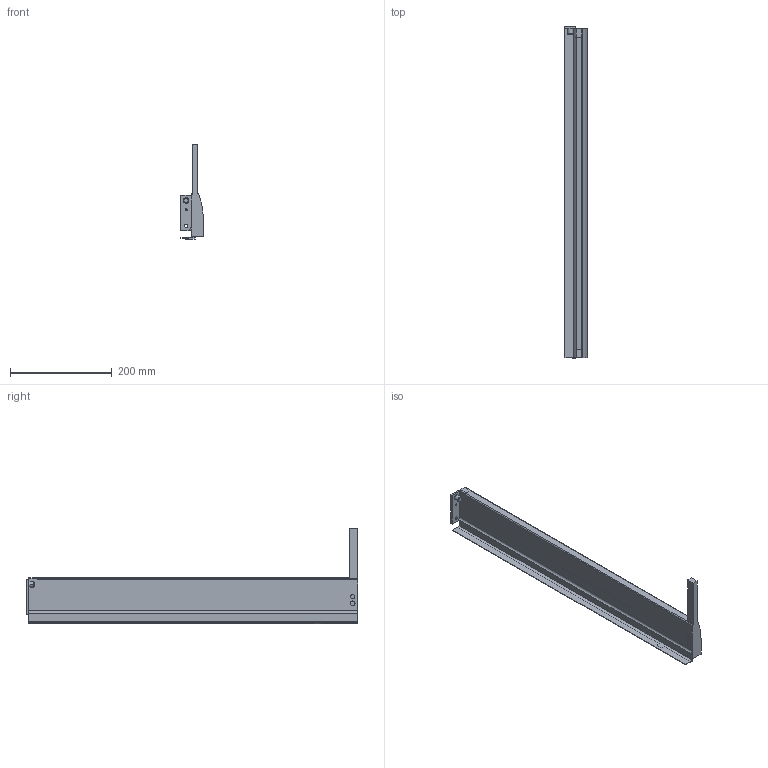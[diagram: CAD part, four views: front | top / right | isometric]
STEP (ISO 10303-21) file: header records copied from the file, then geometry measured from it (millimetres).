
FILE_DESCRIPTION (( 'STEP AP214' ), '1' );
FILE_NAME ('_IMOS_NOVA-Pro_Crystal_Dekor-H90_DL_NL650_RE.step', '2010-07-14T12:43:21', ( 'grass' ), ( '' ), 'SwSTEP 2.0', 'SolidWorks 2009', '' );
FILE_SCHEMA (( 'AUTOMOTIVE_DESIGN' ));
Length unit declared in the file: millimetre
Products named in the file (1): _IMOS_NOVA-Pro_Crystal_Dekor-H90_DL_NL650_RE
Bounding box: 44.3 x 652.7 x 188.49 mm (x, y, z)
Volume: 719906.6 mm3; surface area: 226845.7 mm2
Topology: 1 solids, 1 shells, 87 faces, 235 edges, 155 vertices
Faces by surface type: plane 55, cylinder 27, cone 4, bspline 1
Entity records: 2781 total; most frequent: CARTESIAN_POINT 499, ORIENTED_EDGE 470, DIRECTION 466, EDGE_CURVE 235, LINE 174, VECTOR 174, VERTEX_POINT 155, AXIS2_PLACEMENT_3D 146
